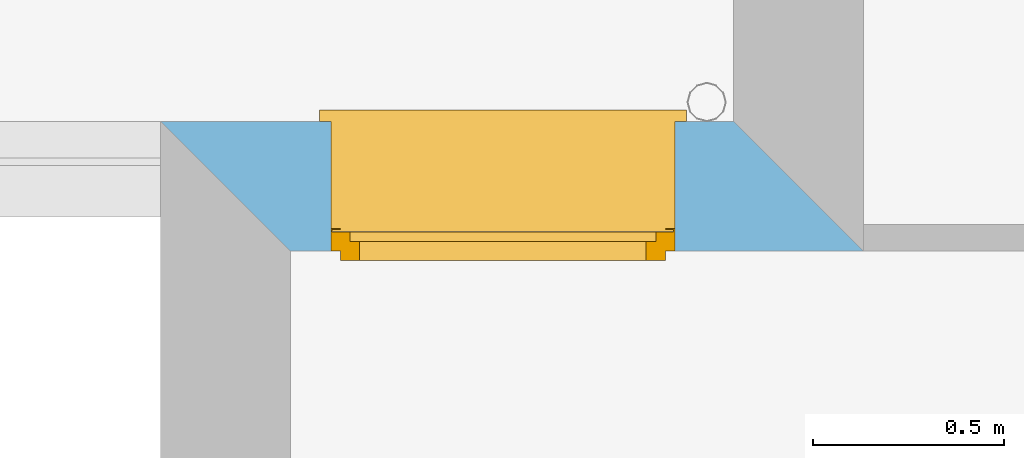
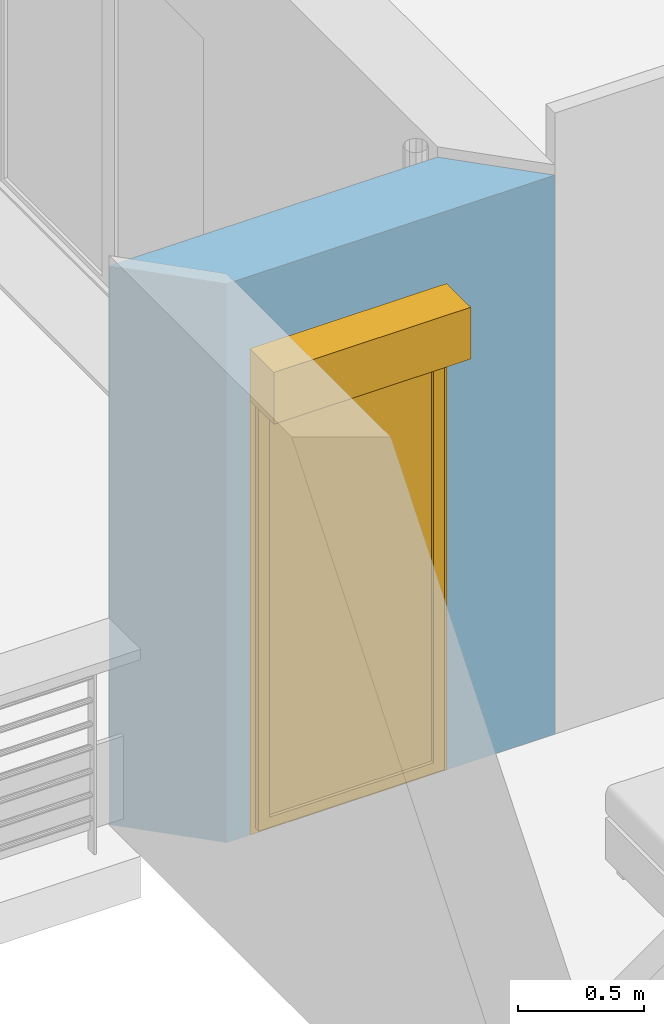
# One storey, part 89 of 164: 1 window, 1 opening, plus 1 element that does not belong to this part.
"""IFC2X3 building model written with IfcOpenShell, lengths in millimetres."""

from ifc_helpers import new_model, entity, si_unit, converted_unit, derived_unit, money_unit, direction, frame, origin_with_axes, place, context, subcontext, project, spatial, polyline, outline, extrude, open_shell, faceted_brep, surface_model, material, layer, layer_set, layer_usage, type_object, element, fill, save


model = new_model("IFC2X3")

# Units and contexts
model_context = context("Model", 3, precision=0.01, world=origin_with_axes(), true_north=direction((0.0, 1.0)))
body_context = subcontext(model_context, "Body", "Model", "MODEL_VIEW")
ifc_project = project(units=[si_unit("LENGTHUNIT", "METRE", prefix="MILLI"), si_unit("AREAUNIT", "SQUARE_METRE"), si_unit("VOLUMEUNIT", "CUBIC_METRE"), converted_unit("PLANEANGLEUNIT", "DEGREE", entity("IfcPlaneAngleMeasure", 0.0174532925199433), si_unit("PLANEANGLEUNIT", "RADIAN"), dimensions=[0, 0, 0, 0, 0, 0, 0]), money_unit("USD"), converted_unit("TIMEUNIT", "Year", entity("IfcTimeMeasure", 31557600.0), si_unit("TIMEUNIT", "SECOND"), dimensions=[0, 0, 1, 0, 0, 0, 0]), si_unit("MASSUNIT", "GRAM", prefix="KILO"), si_unit("THERMODYNAMICTEMPERATUREUNIT", "DEGREE_CELSIUS"), si_unit("LUMINOUSINTENSITYUNIT", "LUMEN"), si_unit("ENERGYUNIT", "JOULE", prefix="MEGA"), derived_unit("THERMALCONDUCTANCEUNIT", [(si_unit("POWERUNIT", "WATT"), 1), (si_unit("LENGTHUNIT", "METRE"), -1), (si_unit("THERMODYNAMICTEMPERATUREUNIT", "KELVIN"), -1)]), derived_unit("SPECIFICHEATCAPACITYUNIT", [(si_unit("ENERGYUNIT", "JOULE"), 1), (si_unit("MASSUNIT", "GRAM", prefix="KILO"), -1), (si_unit("THERMODYNAMICTEMPERATUREUNIT", "KELVIN"), -1)]), derived_unit("MASSDENSITYUNIT", [(si_unit("MASSUNIT", "GRAM", prefix="KILO"), 1), (si_unit("VOLUMEUNIT", "CUBIC_METRE"), -1)])], contexts=[model_context])

# Site, building, storey
site_placement = place(None, origin_with_axes())
site = spatial("IfcSite", under=ifc_project, at=site_placement, Name="Site", CompositionType="ELEMENT")
building_placement = place(site_placement, origin_with_axes())
building = spatial("IfcBuilding", under=site, at=building_placement, Name="Bâtiment", CompositionType="ELEMENT")
storey_placement = place(building_placement, frame((0.0, 0.0, 5750.0), z_axis=(0.0, 0.0, 1.0), x_axis=(1.0, 0.0, 0.0)))
storey = spatial("IfcBuildingStorey", under=building, at=storey_placement, Name="Etage1", CompositionType="ELEMENT", Elevation=5750.0)

# Wall, opening, window
ifc_material_1 = material(Name="Parpaing 312445824")
ifc_layer_1 = layer(ifc_material_1, 180.0, ventilated="UNKNOWN")
ifc_material_2 = material(Name="Isolant styromousse 301821074")
ifc_layer_2 = layer(ifc_material_2, 160.0, ventilated="UNKNOWN")
ifc_layer_set = layer_set([ifc_layer_1, ifc_layer_2], Name="isol int 18+16 0018356637")
ifc_layer_usage = layer_usage(ifc_layer_set, "AXIS2", "NEGATIVE", 0.0)
wall_type = type_object("IfcWallType", Name="isol int 18+16 0018356637 340", PredefinedType="NOTDEFINED")
wall_placement = place(storey_placement, frame((2216634.235568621, -626071.2141322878, 0.0), z_axis=(0.0, 0.0, 1.0), x_axis=(1.0, 0.0, 0.0)))
wall = element("IfcWallStandardCase", 1, at=wall_placement, inside=storey, type_object=wall_type, material=ifc_layer_usage, Name="Mur-142", context=body_context, shape_type="SweptSolid", body=[
    extrude(outline(polyline([(340.0024412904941, -340.0000000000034), (1840.00014514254, -340.0000000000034), (1500.000000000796, 0.0), (0.0004381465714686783, 0.0), (340.0024412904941, -340.0000000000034)])), origin_with_axes(), (0.0, 0.0, 1.0), 2700.0),
])
opening_placement = place(wall_placement, frame((896.3630386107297, 0.0, 0.0), z_axis=(0.0, 0.0, 1.0), x_axis=(1.0, 0.0, 0.0)))
opening = element("IfcOpeningElement", 2, at=opening_placement, cuts=wall, Name="Fen-208", context=body_context, shape_type="Brep", body=[
    faceted_brep([(-449.9999999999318, -279.999999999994, 2100.0), (450.0000000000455, -279.9999999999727, 2100.0), (450.0000000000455, 1.000000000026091, 2100.0), (-450.0000000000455, 1.000000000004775, 2100.0), (-449.9999999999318, -279.999999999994, 2350.0), (450.0000000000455, -279.9999999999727, 2350.0), (450.0000000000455, -289.9999999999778, 2100.0), (450.0000000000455, -289.9999999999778, 0.0), (450.0000000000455, 1.000000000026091, 0.0), (-450.0000000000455, 1.000000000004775, 0.0), (-449.9999999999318, -289.9999999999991, 2100.0), (-450.0000000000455, -289.9999999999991, 0.0), (-449.9999999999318, -341.0000000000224, 2100.0), (-449.9999999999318, -529.9999999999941, 2100.0), (-449.9999999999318, -529.9999999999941, 2350.0), (450.0000000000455, -529.9999999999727, 2350.0), (450.0000000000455, -529.9999999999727, 2100.0), (450.0000000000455, -341.0000000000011, 2100.0), (450.0000000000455, -341.0000000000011, 0.0), (-450.0000000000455, -341.0000000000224, 0.0)], [[[0, 1, 2, 3]], [[1, 0, 4, 5]], [[1, 6, 7, 8, 2]], [[2, 8, 9, 3]], [[10, 0, 3, 9, 11]], [[0, 10, 12, 13, 14, 4]], [[4, 14, 15, 5]], [[6, 1, 5, 15, 16, 17]], [[6, 17, 18, 7]], [[11, 9, 8, 7, 18, 19]], [[12, 10, 11, 19]], [[12, 17, 16, 13]], [[14, 13, 16, 15]], [[17, 12, 19, 18]]]),
])
window_style = type_object("IfcWindowStyle", Name="Fenêtre 27", ConstructionType="NOTDEFINED", OperationType="SINGLE_PANEL", ParameterTakesPrecedence=False, Sizeable=False)
window_placement = place(opening_placement, frame((450.0000000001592, 0.0, 0.0), z_axis=(0.0, 0.0, 1.0), x_axis=(-1.0, 0.0, 0.0)))
window = element("IfcWindow", 3, at=window_placement, inside=storey, type_object=window_style, Name="Fen-208", OverallHeight=2100.0, OverallWidth=900.0, context=body_context, shape_type="SurfaceModel", body=[
    surface_model("IfcShellBasedSurfaceModel", [(900.000000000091, 289.0000000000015, 40.00000000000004), (900.000000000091, 289.0000000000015, 49.99999999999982), (0.0, 288.9999999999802, 49.99999999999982), (0.0, 288.9999999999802, 40.00000000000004), (930.0000000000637, -29.99999999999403, 28.96551724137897), (930.0000000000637, 0.0, 30.00324289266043), (900.000000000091, 0.0, 30.00324289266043), (0.0, 0.0, 30.00324289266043), (-29.99999999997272, 0.0, 30.00324289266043), (-29.99999999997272, -30.00000000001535, 28.96551724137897), (930.0000000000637, -29.99999999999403, 8.965517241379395), (-29.99999999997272, -30.00000000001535, 8.965517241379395), (930.0000000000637, -19.99999999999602, 18.96551724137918), (-29.99999999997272, -20.00000000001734, 18.96551724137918)], [open_shell([[[0, 1, 2, 3]], [[4, 5, 6, 0, 3, 7, 8, 9]], [[10, 4, 9, 11]], [[12, 10, 11, 13]]])]),
    faceted_brep([(0.0, 279.9999999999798, 2350.0), (3.000000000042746, 279.9999999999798, 2350.0), (3.000000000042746, 529.9999999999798, 2350.0), (0.0, 529.9999999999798, 2350.0), (0.0, 279.9999999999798, 2100.0), (3.000000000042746, 279.9999999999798, 2100.0), (3.000000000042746, 529.9999999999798, 2100.0), (0.0, 529.9999999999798, 2100.0)], [[[0, 1, 2, 3]], [[4, 5, 1, 0]], [[1, 5, 6, 2]], [[3, 2, 6, 7]], [[0, 3, 7, 4]], [[7, 6, 5, 4]]]),
    faceted_brep([(897.0000000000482, 280.0000000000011, 2350.0), (900.000000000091, 280.0000000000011, 2350.0), (900.000000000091, 530.0000000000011, 2350.0), (897.0000000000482, 530.0000000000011, 2350.0), (897.0000000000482, 280.0000000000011, 2100.0), (900.000000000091, 280.0000000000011, 2100.0), (900.000000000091, 530.0000000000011, 2100.0), (897.0000000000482, 530.0000000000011, 2100.0)], [[[0, 1, 2, 3]], [[4, 5, 1, 0]], [[1, 5, 6, 2]], [[3, 2, 6, 7]], [[0, 3, 7, 4]], [[7, 6, 5, 4]]]),
    faceted_brep([(3.000000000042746, 279.9999999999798, 2100.0), (897.0000000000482, 280.0000000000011, 2100.0), (897.0000000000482, 280.0000000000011, 2350.0), (3.000000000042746, 279.9999999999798, 2350.0), (3.000000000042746, 282.9999999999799, 2100.0), (897.0000000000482, 283.0000000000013, 2100.0), (897.0000000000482, 283.0000000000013, 2347.0), (897.0000000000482, 527.000000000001, 2347.0), (897.0000000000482, 527.000000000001, 2103.0), (897.0000000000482, 302.0000000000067, 2103.0), (897.0000000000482, 302.0000000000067, 2100.0), (897.0000000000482, 530.0000000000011, 2100.0), (897.0000000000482, 530.0000000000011, 2350.0), (3.000000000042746, 529.9999999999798, 2350.0), (3.000000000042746, 529.9999999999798, 2100.0), (3.000000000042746, 301.9999999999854, 2100.0), (3.000000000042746, 301.9999999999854, 2103.0), (3.000000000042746, 526.9999999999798, 2103.0), (3.000000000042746, 526.9999999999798, 2347.0), (3.000000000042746, 282.9999999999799, 2347.0)], [[[0, 1, 2, 3]], [[4, 5, 1, 0]], [[1, 5, 6, 7, 8, 9, 10, 11, 12, 2]], [[3, 2, 12, 13]], [[0, 3, 13, 14, 15, 16, 17, 18, 19, 4]], [[19, 6, 5, 4]], [[18, 7, 6, 19]], [[17, 8, 7, 18]], [[16, 9, 8, 17]], [[15, 10, 9, 16]], [[14, 11, 10, 15]], [[13, 12, 11, 14]]]),
    faceted_brep([(6.000000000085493, 299.6255704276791, 2206.419644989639), (6.000000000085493, 297.9999999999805, 2225.0), (6.000000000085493, 299.6255704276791, 2243.580355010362), (6.000000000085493, 304.4528895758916, 2261.596155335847), (6.000000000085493, 312.3352817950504, 2278.500000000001), (6.000000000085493, 323.0332445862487, 2293.778274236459), (6.000000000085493, 336.2217257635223, 2306.966755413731), (6.000000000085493, 351.4999999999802, 2317.664718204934), (6.000000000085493, 368.4038446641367, 2325.547110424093), (6.000000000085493, 386.4196449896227, 2330.374429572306), (6.000000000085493, 404.9999999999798, 2332.000000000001), (6.000000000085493, 423.5803550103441, 2330.374429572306), (6.000000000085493, 441.5961553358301, 2325.547110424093), (6.000000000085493, 458.4999999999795, 2317.664718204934), (6.000000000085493, 473.7782742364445, 2306.966755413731), (6.000000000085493, 486.9667554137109, 2293.778274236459), (6.000000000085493, 497.6647182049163, 2278.500000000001), (6.000000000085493, 505.5471104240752, 2261.596155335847), (6.000000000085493, 510.3744295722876, 2243.580355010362), (6.000000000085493, 511.9999999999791, 2225.0), (6.000000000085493, 510.3744295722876, 2206.419644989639), (6.000000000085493, 505.5471104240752, 2188.403844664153), (6.000000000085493, 497.6647182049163, 2171.5), (6.000000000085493, 486.9667554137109, 2156.22172576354), (6.000000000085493, 473.7782742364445, 2143.03324458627), (6.000000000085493, 458.4999999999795, 2132.335281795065), (6.000000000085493, 441.5961553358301, 2124.452889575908), (6.000000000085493, 423.5803550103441, 2119.625570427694), (6.000000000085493, 404.9999999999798, 2118.0), (6.000000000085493, 386.4196449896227, 2119.625570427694), (6.000000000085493, 368.4038446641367, 2124.452889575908), (6.000000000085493, 351.4999999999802, 2132.335281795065), (6.000000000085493, 336.2217257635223, 2143.03324458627), (6.000000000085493, 323.0332445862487, 2156.22172576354), (6.000000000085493, 312.3352817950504, 2171.5), (6.000000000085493, 304.4528895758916, 2188.403844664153), (894.0000000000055, 299.6255704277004, 2206.419644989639), (894.0000000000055, 298.0000000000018, 2225.0), (894.0000000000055, 299.6255704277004, 2243.580355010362), (894.0000000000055, 304.4528895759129, 2261.596155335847), (894.0000000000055, 312.3352817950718, 2278.500000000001), (894.0000000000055, 323.03324458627, 2293.778274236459), (894.0000000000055, 336.2217257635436, 2306.966755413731), (894.0000000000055, 351.5000000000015, 2317.664718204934), (894.0000000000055, 368.403844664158, 2325.547110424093), (894.0000000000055, 386.419644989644, 2330.374429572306), (894.0000000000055, 405.0000000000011, 2332.000000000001), (894.0000000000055, 423.5803550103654, 2330.374429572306), (894.0000000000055, 441.5961553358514, 2325.547110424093), (894.0000000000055, 458.5000000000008, 2317.664718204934), (894.0000000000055, 473.7782742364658, 2306.966755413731), (894.0000000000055, 486.9667554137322, 2293.778274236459), (894.0000000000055, 497.6647182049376, 2278.500000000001), (894.0000000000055, 505.5471104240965, 2261.596155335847), (894.0000000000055, 510.3744295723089, 2243.580355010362), (894.0000000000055, 512.0000000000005, 2225.0), (894.0000000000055, 510.3744295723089, 2206.419644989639), (894.0000000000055, 505.5471104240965, 2188.403844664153), (894.0000000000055, 497.6647182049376, 2171.5), (894.0000000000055, 486.9667554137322, 2156.22172576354), (894.0000000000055, 473.7782742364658, 2143.03324458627), (894.0000000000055, 458.5000000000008, 2132.335281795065), (894.0000000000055, 441.5961553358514, 2124.452889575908), (894.0000000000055, 423.5803550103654, 2119.625570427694), (894.0000000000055, 405.0000000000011, 2118.0), (894.0000000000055, 386.419644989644, 2119.625570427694), (894.0000000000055, 368.403844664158, 2124.452889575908), (894.0000000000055, 351.5000000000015, 2132.335281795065), (894.0000000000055, 336.2217257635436, 2143.03324458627), (894.0000000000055, 323.03324458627, 2156.22172576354), (894.0000000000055, 312.3352817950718, 2171.5), (894.0000000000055, 304.4528895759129, 2188.403844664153)], [[[0, 1, 2, 3, 4, 5, 6, 7, 8, 9, 10, 11, 12, 13, 14, 15, 16, 17, 18, 19, 20, 21, 22, 23, 24, 25, 26, 27, 28, 29, 30, 31, 32, 33, 34, 35]], [[0, 36, 37, 1]], [[1, 37, 38, 2]], [[2, 38, 39, 3]], [[3, 39, 40, 4]], [[4, 40, 41, 5]], [[5, 41, 42, 6]], [[6, 42, 43, 7]], [[7, 43, 44, 8]], [[8, 44, 45, 9]], [[9, 45, 46, 10]], [[10, 46, 47, 11]], [[11, 47, 48, 12]], [[12, 48, 49, 13]], [[13, 49, 50, 14]], [[14, 50, 51, 15]], [[15, 51, 52, 16]], [[16, 52, 53, 17]], [[17, 53, 54, 18]], [[18, 54, 55, 19]], [[19, 55, 56, 20]], [[20, 56, 57, 21]], [[21, 57, 58, 22]], [[22, 58, 59, 23]], [[23, 59, 60, 24]], [[24, 60, 61, 25]], [[25, 61, 62, 26]], [[26, 62, 63, 27]], [[27, 63, 64, 28]], [[28, 64, 65, 29]], [[29, 65, 66, 30]], [[30, 66, 67, 31]], [[31, 67, 68, 32]], [[32, 68, 69, 33]], [[33, 69, 70, 34]], [[34, 70, 71, 35]], [[35, 71, 36, 0]], [[36, 71, 70, 69, 68, 67, 66, 65, 64, 63, 62, 61, 60, 59, 58, 57, 56, 55, 54, 53, 52, 51, 50, 49, 48, 47, 46, 45, 44, 43, 42, 41, 40, 39, 38, 37]]]),
    faceted_brep([(900.000000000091, 305.0000000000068, 30.00000000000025), (900.000000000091, 305.0000000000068, 2100.0), (900.000000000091, 280.0000000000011, 2100.0), (900.000000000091, 280.0000000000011, 30.00000000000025), (875.0, 305.0000000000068, 30.00000000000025), (875.0, 305.0000000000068, 2100.0), (875.0, 302.0000000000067, 2100.0), (897.0000000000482, 302.0000000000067, 2100.0), (897.0000000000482, 283.0000000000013, 2100.0), (875.0, 283.0000000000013, 2100.0), (875.0, 280.0000000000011, 2100.0), (875.0, 280.0000000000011, 30.00000000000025), (875.0, 283.0000000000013, 30.00000000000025), (897.0000000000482, 283.0000000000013, 30.00000000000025), (897.0000000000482, 302.0000000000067, 30.00000000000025), (875.0, 302.0000000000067, 30.00000000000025)], [[[0, 1, 2, 3]], [[4, 5, 1, 0]], [[1, 5, 6, 7, 8, 9, 10, 2]], [[3, 2, 10, 11]], [[0, 3, 11, 12, 13, 14, 15, 4]], [[15, 6, 5, 4]], [[14, 7, 6, 15]], [[13, 8, 7, 14]], [[12, 9, 8, 13]], [[11, 10, 9, 12]]]),
    faceted_brep([(0.0, 304.9999999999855, 30.00000000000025), (0.0, 279.9999999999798, 30.00000000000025), (0.0, 279.9999999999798, 2100.0), (0.0, 304.9999999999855, 2100.0), (25.00000000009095, 304.9999999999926, 30.00000000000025), (25.00000000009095, 301.9999999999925, 30.00000000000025), (3.000000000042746, 301.9999999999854, 30.00000000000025), (3.000000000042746, 282.9999999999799, 30.00000000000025), (25.00000000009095, 282.999999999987, 30.00000000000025), (25.00000000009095, 279.9999999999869, 30.00000000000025), (25.00000000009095, 279.9999999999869, 2100.0), (25.00000000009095, 282.999999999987, 2100.0), (3.000000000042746, 282.9999999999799, 2100.0), (3.000000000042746, 301.9999999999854, 2100.0), (25.00000000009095, 301.9999999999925, 2100.0), (25.00000000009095, 304.9999999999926, 2100.0)], [[[0, 1, 2, 3]], [[0, 4, 5, 6, 7, 8, 9, 1]], [[1, 9, 10, 2]], [[3, 2, 10, 11, 12, 13, 14, 15]], [[4, 0, 3, 15]], [[5, 4, 15, 14]], [[6, 5, 14, 13]], [[7, 6, 13, 12]], [[8, 7, 12, 11]], [[9, 8, 11, 10]]]),
    faceted_brep([(897.0000000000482, 293.3333333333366, 2225.0), (897.0000000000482, 293.3333333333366, 2216.666666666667), (3.000000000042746, 293.3333333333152, 2216.666666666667), (3.000000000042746, 293.3333333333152, 2225.0), (897.0000000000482, 288.333333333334, 2225.0), (897.0000000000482, 288.333333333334, 2216.666666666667), (897.0000000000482, 290.0000000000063, 2200.000000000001), (897.0000000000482, 295.0000000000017, 2200.000000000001), (3.000000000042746, 294.9999999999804, 2200.000000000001), (3.000000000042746, 289.9999999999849, 2200.000000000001), (3.000000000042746, 288.3333333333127, 2216.666666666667), (3.000000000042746, 288.3333333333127, 2225.0)], [[[0, 1, 2, 3]], [[4, 5, 6, 7, 1, 0]], [[2, 1, 7, 8]], [[3, 2, 8, 9, 10, 11]], [[3, 11, 4, 0]], [[10, 5, 4, 11]], [[9, 6, 5, 10]], [[8, 7, 6, 9]]]),
    faceted_brep([(3.000000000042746, 294.9999999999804, 2200.000000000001), (897.0000000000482, 295.0000000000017, 2200.000000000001), (897.0000000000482, 293.3333333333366, 2183.333333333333), (3.000000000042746, 293.3333333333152, 2183.333333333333), (3.000000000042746, 289.9999999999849, 2200.000000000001), (897.0000000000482, 290.0000000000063, 2200.000000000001), (897.0000000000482, 288.333333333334, 2183.333333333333), (897.0000000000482, 288.333333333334, 2166.666666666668), (897.0000000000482, 290.0000000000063, 2150.0), (897.0000000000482, 295.0000000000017, 2150.0), (897.0000000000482, 293.3333333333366, 2166.666666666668), (3.000000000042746, 293.3333333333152, 2166.666666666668), (3.000000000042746, 294.9999999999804, 2150.0), (3.000000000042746, 289.9999999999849, 2150.0), (3.000000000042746, 288.3333333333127, 2166.666666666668), (3.000000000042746, 288.3333333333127, 2183.333333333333)], [[[0, 1, 2, 3]], [[4, 5, 1, 0]], [[1, 5, 6, 7, 8, 9, 10, 2]], [[3, 2, 10, 11]], [[0, 3, 11, 12, 13, 14, 15, 4]], [[15, 6, 5, 4]], [[14, 7, 6, 15]], [[13, 8, 7, 14]], [[12, 9, 8, 13]], [[11, 10, 9, 12]]]),
    faceted_brep([(3.000000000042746, 294.9999999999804, 2150.0), (897.0000000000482, 295.0000000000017, 2150.0), (897.0000000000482, 293.3333333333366, 2133.333333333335), (3.000000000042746, 293.3333333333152, 2133.333333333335), (3.000000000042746, 289.9999999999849, 2150.0), (897.0000000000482, 290.0000000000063, 2150.0), (897.0000000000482, 288.333333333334, 2133.333333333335), (897.0000000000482, 288.333333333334, 2116.666666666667), (897.0000000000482, 290.0000000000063, 2100.000000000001), (897.0000000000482, 295.0000000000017, 2100.000000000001), (897.0000000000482, 293.3333333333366, 2116.666666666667), (3.000000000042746, 293.3333333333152, 2116.666666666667), (3.000000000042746, 294.9999999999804, 2100.000000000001), (3.000000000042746, 289.9999999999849, 2100.000000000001), (3.000000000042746, 288.3333333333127, 2116.666666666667), (3.000000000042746, 288.3333333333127, 2133.333333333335)], [[[0, 1, 2, 3]], [[4, 5, 1, 0]], [[1, 5, 6, 7, 8, 9, 10, 2]], [[3, 2, 10, 11]], [[0, 3, 11, 12, 13, 14, 15, 4]], [[15, 6, 5, 4]], [[14, 7, 6, 15]], [[13, 8, 7, 14]], [[12, 9, 8, 13]], [[11, 10, 9, 12]]]),
    faceted_brep([(25.00000000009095, 339.9999999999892, 2050.000000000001), (0.0, 339.9999999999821, 2050.000000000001), (0.0, 289.9999999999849, 2050.000000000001), (50.00000000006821, 289.999999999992, 2050.000000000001), (50.00000000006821, 314.9999999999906, 2050.000000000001), (25.00000000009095, 314.9999999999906, 2050.000000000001), (25.00000000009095, 339.9999999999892, 49.99999999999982), (0.0, 339.9999999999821, 49.99999999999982), (0.0, 289.9999999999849, 49.99999999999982), (50.00000000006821, 289.999999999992, 49.99999999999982), (50.00000000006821, 314.9999999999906, 49.99999999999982), (25.00000000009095, 314.9999999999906, 50.00000000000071)], [[[0, 1, 2, 3, 4, 5]], [[6, 7, 1, 0]], [[1, 7, 8, 2]], [[2, 8, 9, 3]], [[4, 3, 9, 10]], [[10, 11, 5, 4]], [[5, 11, 6, 0]], [[11, 10, 9, 8, 7, 6]]]),
    faceted_brep([(850.0000000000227, 315.0000000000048, 2050.000000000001), (850.0000000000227, 290.0000000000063, 2050.000000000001), (900.000000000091, 290.0000000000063, 2050.000000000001), (900.000000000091, 340.0000000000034, 2050.000000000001), (875.0, 340.0000000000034, 2050.000000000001), (875.0, 315.0000000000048, 2050.000000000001), (850.0000000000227, 315.0000000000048, 49.99999999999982), (850.0000000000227, 290.0000000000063, 49.99999999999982), (900.000000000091, 290.0000000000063, 49.99999999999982), (900.000000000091, 340.0000000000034, 49.99999999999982), (875.0, 340.0000000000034, 49.99999999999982), (875.0, 315.0000000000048, 49.99999999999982)], [[[0, 1, 2, 3, 4, 5]], [[6, 7, 1, 0]], [[8, 2, 1, 7]], [[9, 3, 2, 8]], [[4, 3, 9, 10]], [[10, 11, 5, 4]], [[5, 11, 6, 0]], [[11, 10, 9, 8, 7, 6]]]),
    faceted_brep([(850.0000000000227, 315.0000000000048, 49.99999999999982), (850.0000000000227, 290.0000000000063, 49.99999999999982), (900.000000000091, 290.0000000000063, 49.99999999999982), (900.000000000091, 340.0000000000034, 49.99999999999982), (875.0, 340.0000000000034, 49.99999999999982), (875.0, 315.0000000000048, 49.99999999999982), (50.00000000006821, 314.9999999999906, 49.99999999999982), (50.00000000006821, 289.999999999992, 49.99999999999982), (0.0, 289.9999999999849, 49.99999999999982), (0.0, 289.9999999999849, 0.0), (900.000000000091, 290.0000000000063, 0.0), (900.000000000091, 340.0000000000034, 0.0), (25.00000000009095, 339.9999999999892, 25.00000000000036), (875.0, 340.0000000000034, 25.00000000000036), (0.0, 339.9999999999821, 0.0), (0.0, 339.9999999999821, 49.99999999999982), (25.00000000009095, 339.9999999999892, 49.99999999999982), (875.0, 315.0000000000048, 25.00000000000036), (25.00000000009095, 314.9999999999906, 25.00000000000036), (25.00000000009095, 314.9999999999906, 50.00000000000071)], [[[0, 1, 2, 3, 4, 5]], [[6, 7, 1, 0]], [[8, 9, 10, 2, 1, 7]], [[11, 3, 2, 10]], [[12, 13, 4, 3, 11, 14, 15, 16]], [[13, 17, 5, 4]], [[5, 17, 18, 19, 6, 0]], [[19, 16, 15, 8, 7, 6]], [[15, 14, 9, 8]], [[14, 11, 10, 9]], [[12, 18, 17, 13]], [[19, 18, 12, 16]]]),
    faceted_brep([(25.00000000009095, 339.9999999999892, 2050.000000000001), (0.0, 339.9999999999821, 2050.000000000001), (0.0, 339.9999999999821, 2100.0), (900.000000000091, 340.0000000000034, 2100.0), (900.000000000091, 340.0000000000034, 2050.000000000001), (875.0, 340.0000000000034, 2050.000000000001), (875.0, 340.0000000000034, 2075.0), (25.00000000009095, 339.9999999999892, 2075.0), (25.00000000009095, 314.9999999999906, 2050.000000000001), (50.00000000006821, 314.9999999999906, 2050.000000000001), (50.00000000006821, 289.999999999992, 2050.000000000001), (0.0, 289.9999999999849, 2050.000000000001), (0.0, 289.9999999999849, 2100.0), (900.000000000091, 290.0000000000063, 2100.0), (900.000000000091, 290.0000000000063, 2050.000000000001), (875.0, 315.0000000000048, 2050.000000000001), (850.0000000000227, 290.0000000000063, 2050.000000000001), (850.0000000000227, 315.0000000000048, 2050.000000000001), (875.0, 315.0000000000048, 2075.0), (25.00000000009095, 314.9999999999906, 2075.0)], [[[0, 1, 2, 3, 4, 5, 6, 7]], [[8, 9, 10, 11, 1, 0]], [[2, 1, 11, 12]], [[3, 2, 12, 13]], [[4, 3, 13, 14]], [[15, 5, 4, 14, 16, 17]], [[5, 15, 18, 6]], [[6, 18, 19, 7]], [[7, 19, 8, 0]], [[17, 9, 8, 19, 18, 15]], [[17, 16, 10, 9]], [[14, 13, 12, 11, 10, 16]]]),
    faceted_brep([(75.00000000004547, 314.9999999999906, 2025.0), (75.00000000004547, 364.9999999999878, 2025.0), (25.00000000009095, 364.9999999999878, 2025.0), (25.00000000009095, 314.9999999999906, 2025.0), (75.00000000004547, 314.9999999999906, 75.00000000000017), (75.00000000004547, 364.9999999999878, 75.00000000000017), (25.00000000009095, 364.9999999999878, 75.00000000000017), (25.00000000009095, 314.9999999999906, 75.00000000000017)], [[[0, 1, 2, 3]], [[4, 5, 1, 0]], [[1, 5, 6, 2]], [[3, 2, 6, 7]], [[0, 3, 7, 4]], [[7, 6, 5, 4]]]),
    faceted_brep([(825.0000000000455, 315.0000000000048, 75.00000000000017), (825.0000000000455, 365.000000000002, 75.00000000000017), (875.0, 365.000000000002, 75.00000000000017), (875.0, 315.0000000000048, 75.00000000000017), (825.0000000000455, 315.0000000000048, 2025.0), (825.0000000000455, 365.000000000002, 2025.0), (875.0, 365.000000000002, 2025.0), (875.0, 315.0000000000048, 2025.0)], [[[0, 1, 2, 3]], [[4, 5, 1, 0]], [[1, 5, 6, 2]], [[3, 2, 6, 7]], [[0, 3, 7, 4]], [[7, 6, 5, 4]]]),
    faceted_brep([(875.0, 315.0000000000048, 25.00000000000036), (875.0, 365.000000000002, 25.00000000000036), (875.0, 365.000000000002, 75.00000000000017), (875.0, 315.0000000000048, 75.00000000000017), (25.00000000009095, 314.9999999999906, 25.00000000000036), (25.00000000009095, 364.9999999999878, 25.00000000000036), (25.00000000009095, 364.9999999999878, 75.00000000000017), (75.00000000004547, 364.9999999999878, 75.00000000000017), (825.0000000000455, 365.000000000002, 75.00000000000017), (825.0000000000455, 315.0000000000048, 75.00000000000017), (75.00000000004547, 314.9999999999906, 75.00000000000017), (25.00000000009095, 314.9999999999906, 75.00000000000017)], [[[0, 1, 2, 3]], [[4, 5, 1, 0]], [[1, 5, 6, 7, 8, 2]], [[3, 2, 8, 9]], [[0, 3, 9, 10, 11, 4]], [[11, 6, 5, 4]], [[10, 7, 6, 11]], [[9, 8, 7, 10]]]),
    faceted_brep([(25.00000000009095, 314.9999999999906, 2075.0), (25.00000000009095, 364.9999999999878, 2075.0), (25.00000000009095, 364.9999999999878, 2025.0), (25.00000000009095, 314.9999999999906, 2025.0), (875.0, 315.0000000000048, 2075.0), (875.0, 365.000000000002, 2075.0), (875.0, 365.000000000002, 2025.0), (825.0000000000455, 365.000000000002, 2025.0), (75.00000000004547, 364.9999999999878, 2025.0), (75.00000000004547, 314.9999999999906, 2025.0), (825.0000000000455, 315.0000000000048, 2025.0), (875.0, 315.0000000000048, 2025.0)], [[[0, 1, 2, 3]], [[4, 5, 1, 0]], [[1, 5, 6, 7, 8, 2]], [[3, 2, 8, 9]], [[0, 3, 9, 10, 11, 4]], [[11, 6, 5, 4]], [[10, 7, 6, 11]], [[9, 8, 7, 10]]]),
    surface_model("IfcShellBasedSurfaceModel", [(75.00000000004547, 329.9999999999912, 75.00000000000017), (825.0000000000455, 330.0000000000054, 75.00000000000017), (825.0000000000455, 330.0000000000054, 2025.0), (75.00000000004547, 329.9999999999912, 2025.0)], [open_shell([[[0, 1, 2, 3]]])]),
    surface_model("IfcShellBasedSurfaceModel", [(75.00000000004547, 349.9999999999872, 75.00000000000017), (75.00000000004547, 349.9999999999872, 2025.0), (825.0000000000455, 350.0000000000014, 2025.0), (825.0000000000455, 350.0000000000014, 75.00000000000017)], [open_shell([[[0, 1, 2, 3]]])]),
])
fill(opening, window)

save(model, "model.ifc")
